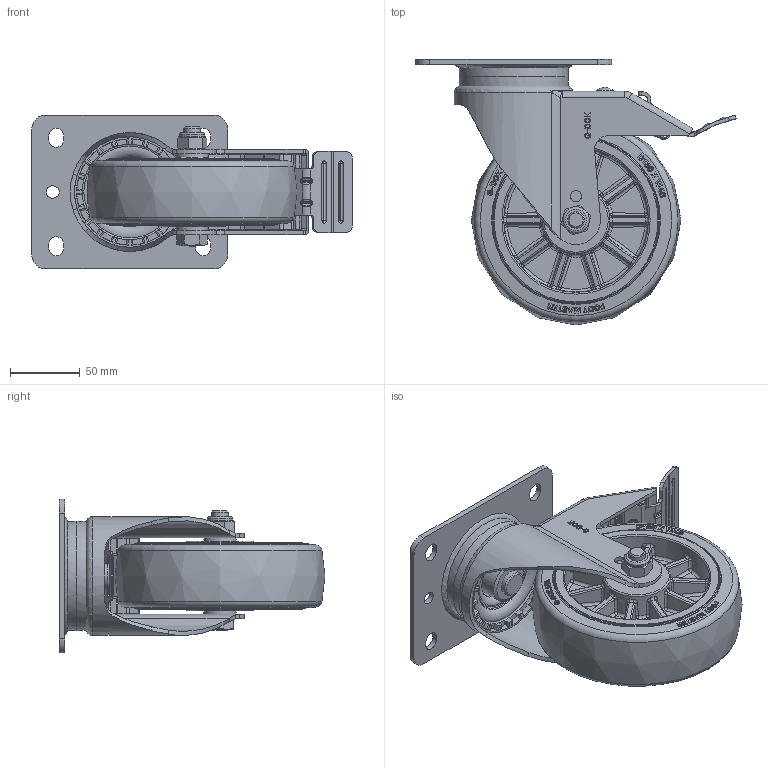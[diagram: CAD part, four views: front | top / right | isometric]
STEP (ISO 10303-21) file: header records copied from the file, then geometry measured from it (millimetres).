
FILE_DESCRIPTION(/* description */ (''),/* implementation_level */ '2;1');
FILE_NAME(/* name */ 'C:\Users\admin\Desktop\업무폴더\일자별 업무\2026\05월\05.15\변환\SPH-150-BSF-TUD&HRD-PEU.ipt.stp',/* time_stamp */ '2026-05-15T16:35:25+09:00',/* author */ ('admin'),/* organization */ ('지덕산업'),/* preprocessor_version */ 'ST-DEVELOPER v18.1',/* originating_system */ 'Autodesk Inventor 2021',/* authorisation */ '');
FILE_SCHEMA (('AUTOMOTIVE_DESIGN { 1 0 10303 214 3 1 1 }'));
Products named in the file (1): SPH-150-BSF-TUD&HRD-PEU
Bounding box: 228.97 x 190 x 110 mm (x, y, z)
Volume: 868846.1 mm3; surface area: 183901 mm2
Topology: 1 solids, 2 shells, 2040 faces, 5280 edges, 3316 vertices
Faces by surface type: plane 792, bspline 671, cylinder 329, torus 84, cone 83, sphere 81
Full cylindrical faces by diameter (mm): 6 x1, 8 x5, 9 x3, 12 x2, 18 x2, 18.5 x1, 31 x1, 31.177 x1
Entity records: 73325 total; most frequent: CARTESIAN_POINT 28753, ORIENTED_EDGE 10524, DIRECTION 7376, EDGE_CURVE 5264, VERTEX_POINT 3316, AXIS2_PLACEMENT_3D 2574, LINE 2228, VECTOR 2228
